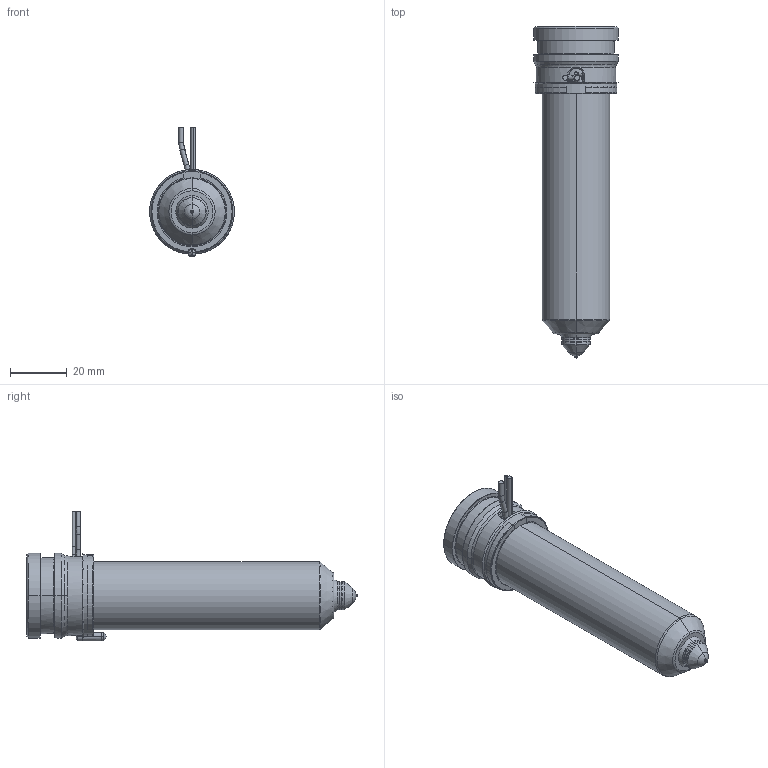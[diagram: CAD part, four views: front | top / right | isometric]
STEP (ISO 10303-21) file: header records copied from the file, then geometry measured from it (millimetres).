
FILE_DESCRIPTION((''),'2;1');
FILE_NAME('MPN-10-29-VX10-096-A','2026-02-05T12:40:42',('UPTIO'),('Thermoplay S.p.A.'),'CREO PARAMETRIC BY PTC INC, 2023494','CREO PARAMETRIC BY PTC INC, 2023494','');
FILE_SCHEMA(('CONFIG_CONTROL_DESIGN','SHAPE_APPEARANCE_LAYERS_GROUPS'));
Length unit declared in the file: millimetre
Products named in the file (1): MPN-10-29-VX10-096-A
Bounding box: 30 x 117.5 x 46 mm (x, y, z)
Volume: 36890.4 mm3; surface area: 36935.1 mm2
Topology: 2 solids, 3 shells, 557 faces, 1459 edges, 901 vertices
Faces by surface type: cylinder 182, plane 144, bspline 76, torus 72, cone 70, sphere 9, extrusion 4
Entity records: 28027 total; most frequent: CARTESIAN_POINT 11520, ORIENTED_EDGE 2906, DIRECTION 2711, EDGE_CURVE 1453, AXIS2_PLACEMENT_3D 1078, VERTEX_POINT 901, CIRCLE 600, EDGE_LOOP 586
